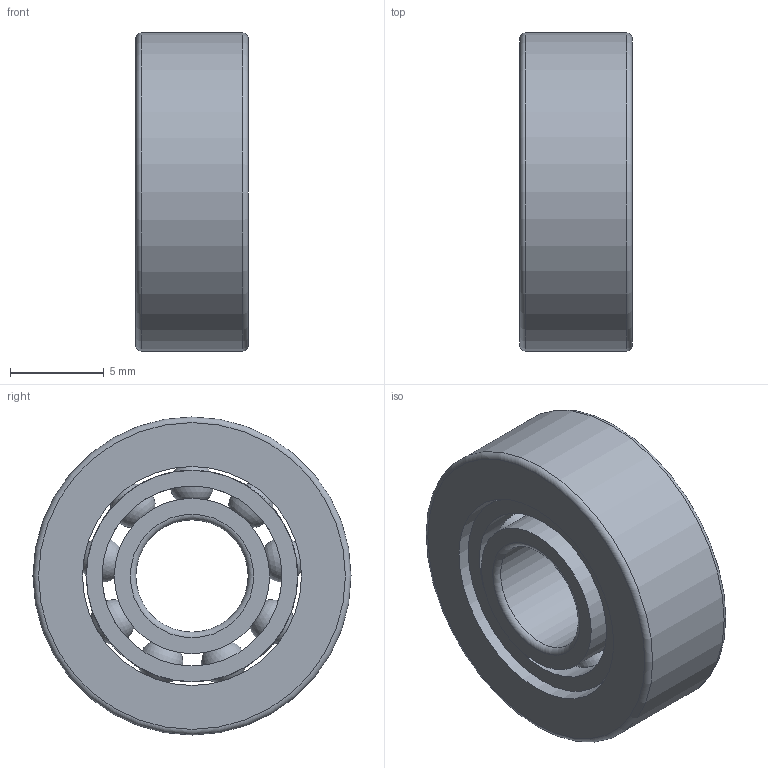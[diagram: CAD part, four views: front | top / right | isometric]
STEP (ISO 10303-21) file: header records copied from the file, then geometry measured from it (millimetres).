
FILE_DESCRIPTION(/* description */ (''),/* implementation_level */ '2;1');
FILE_NAME(/* name */ 'S_606_TA.step',/* time_stamp */ '2013-03-06T14:43:01+01:00',/* author */ ('Marian'),/* organization */ ('GMN'),/* preprocessor_version */ 'ST-DEVELOPER v11',/* originating_system */ 'SIEMENS UGS NX 6.0',/* authorisation */ '');
FILE_SCHEMA (('CONFIG_CONTROL_DESIGN'));
Length unit declared in the file: millimetre
Products named in the file (1): S_606_TA
Bounding box: 6 x 17 x 17 mm (x, y, z)
Volume: 979.5 mm3; surface area: 1592.1 mm2
Topology: 12 solids, 12 shells, 38 faces, 88 edges, 56 vertices
Faces by surface type: cylinder 16, sphere 9, torus 6, plane 6, cone 1
Full cylindrical faces by diameter (mm): 2.581 x9, 6 x1, 8.3 x2, 9.621 x1, 11.3 x1, 11.7 x1, 17 x1
Entity records: 1884 total; most frequent: CARTESIAN_POINT 1150, DIRECTION 118, FACE_BOUND 85, EDGE_LOOP 76, ORIENTED_EDGE 76, AXIS2_PLACEMENT_3D 59, VERTEX_POINT 47, EDGE_CURVE 38
